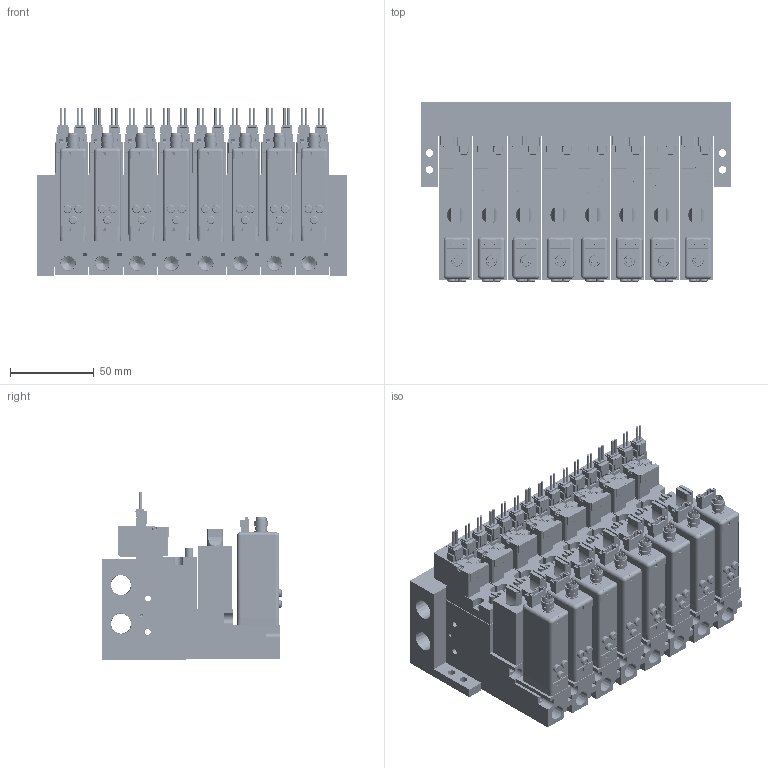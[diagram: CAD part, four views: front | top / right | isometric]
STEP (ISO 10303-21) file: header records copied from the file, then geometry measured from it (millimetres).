
FILE_DESCRIPTION(('STEP AP203'),'1');
FILE_NAME('BMPV32M2N20225AL808.stp','2025-06-16T08:58:23',(' '),(' '),'Spatial InterOp 3D',' ',' ');
FILE_SCHEMA(('CONFIG_CONTROL_DESIGN'));
Length unit declared in the file: millimetre
Products named in the file (100): BMPV32M2N20225AL808; MVS-202; ___-3(Rc); Filter Assy; __; _____; ___ ___; MB BRACKET; MB08; ___; upper plate-A; ______; ____; VACUUM VALVE FUNCTION MPV42-A; UV280-4E
Assembly tree (99 placements, depth 2):
  BMPV32M2N20225AL808
    MVS-202
    ___-3(Rc)
    Filter Assy
    __
    _____
    ___ ___
    MVS-202
    ___-3(Rc)
    Filter Assy
    __
    _____
    ___ ___
    MVS-202
    ___-3(Rc)
    Filter Assy
    __
    _____
    ___ ___
    MVS-202
    ___-3(Rc)
    Filter Assy
    __
    _____
    ___ ___
    MVS-202
    ___-3(Rc)
    Filter Assy
    __
    _____
    ___ ___
    MVS-202
    ___-3(Rc)
    Filter Assy
    __
    _____
    ___ ___
    MVS-202
    ___-3(Rc)
    Filter Assy
    __
    _____
    ___ ___
    MB BRACKET
    MB08
    MB BRACKET
    MVS-202
    ___-3(Rc)
    Filter Assy
    __
    _____
    ___ ___
    ___
    upper plate-A
    ______
    ____
    VACUUM VALVE FUNCTION MPV42-A
    ___
    upper plate-A
    ______
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Bounding box: 184.5 x 106.6 x 99.75 mm (x, y, z)
Volume: 1029928.5 mm3; surface area: 360352 mm2
Topology: 99 solids, 131 shells, 6311 faces, 16196 edges, 10608 vertices
Faces by surface type: plane 5165, cylinder 954, cone 136, sphere 32, torus 24
Full cylindrical faces by diameter (mm): 1 x32, 1.4 x32, 1.5 x8, 1.8 x16, 2 x16, 2.5 x20, 2.8 x32, 3 x32, 3.5 x84, 4 x8, 4.2 x8, 4.5 x36, 4.8 x24, 5 x24, 5.5 x8, 5.8 x16, 6 x8, 6.5 x30, 7 x8, 7.2 x8, 7.9 x8, 8 x16, 8.2 x8, 8.759 x8, 11.776 x2
Entity records: 190566 total; most frequent: CARTESIAN_POINT 33319, ORIENTED_EDGE 30632, DIRECTION 30386, EDGE_CURVE 15316, LINE 12812, VECTOR 12812, VERTEX_POINT 10472, AXIS2_PLACEMENT_3D 8787
